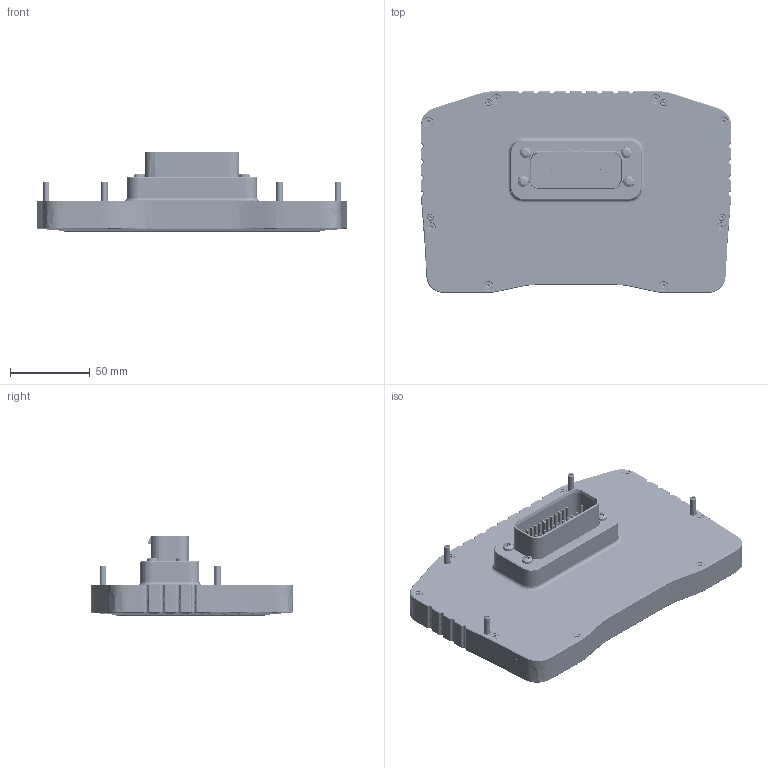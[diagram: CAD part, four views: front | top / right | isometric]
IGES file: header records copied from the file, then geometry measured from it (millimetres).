
Start section: SolidWorks IGES file using analytic representation for surfaces
Global section: file name: C:\Users\asus\Dropbox\ECUMASTER-CAD\ADUv2\pub\ADU7v2.IGS; native system: SolidWorks 2017; preprocessor: SolidWorks 2017; author: asus; date: 210104.133809; units: millimetre
Bounding box: 195.2 x 126.95 x 50.82 mm (x, y, z)
Surface area: 192548.6 mm2 (no closed solid volume)
Topology: 0 solids, 0 shells, 3585 faces, 39367 edges, 39292 vertices
Faces by surface type: revolution 1805, bspline 1780
